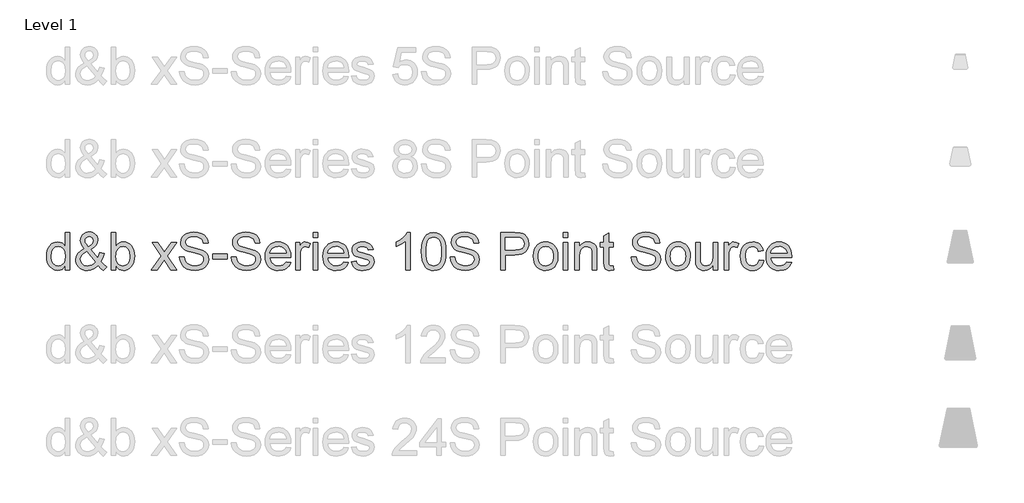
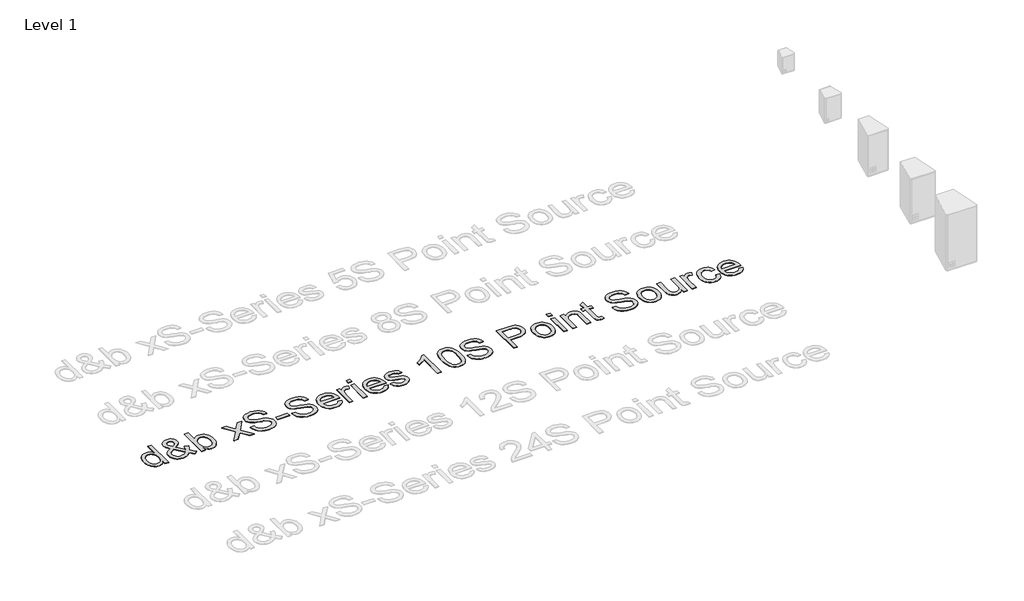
# One storey, part 47 of 55: 1 proxy.
"""IFC4 building model written with IfcOpenShell, lengths in millimetres."""

from ifc_helpers import new_model, si_unit, origin, origin_with_axes, place, context, project, spatial, polyline, outline, extrude, element, save

model = new_model("IFC4")

# Units and contexts
model_context = context("Model", 3, world=origin())
ifc_project = project(units=[si_unit("LENGTHUNIT", "METRE", prefix="MILLI")], contexts=[model_context])

# Site, building, storey
site = spatial("IfcSite", under=ifc_project)
building = spatial("IfcBuilding", under=site)
storey = spatial("IfcBuildingStorey", under=building, Name="Level 1", Elevation=0.0)

# Proxy
placement = place(None, origin())
element("IfcBuildingElementProxy", 1, Name="400mm Arial", ObjectType="400mm Arial", at=placement, inside=storey, context=model_context, shape_type="SweptSolid", body=[
    extrude(outline(polyline([(-20879.8211974, 13351.3054836), (-20879.8211974, 13398.6886846), (-20894.8491769, 13375.2116819), (-20913.0532043, 13358.4423943), (-20934.4332796, 13348.3808217), (-20958.9894028, 13345.0269642), (-20991.4611202, 13349.8830065), (-21021.1859854, 13364.4511335), (-21046.3491139, 13387.7135384), (-21065.1356211, 13418.6524142), (-21076.8342686, 13456.0169621), (-21080.7338177, 13498.5563835), (-21077.1408369, 13540.5685074), (-21066.3618944, 13578.5094038), (-21048.4092531, 13610.2208318), (-21023.2951755, 13633.5445503), (-20992.9203855, 13647.8919481), (-20959.1856065, 13652.674414), (-20934.6110892, 13649.2531115), (-20912.8815261, 13638.9892038), (-20894.4629008, 13623.2561171), (-20879.8211974, 13603.4272776), (-20879.8211974, 13753.1307242), (-20829.5930424, 13753.1307242), (-20829.5930424, 13351.3054836), (-20879.8211974, 13351.3054836)]), holes=[polyline([(-21030.5056627, 13498.7525872), (-21029.089317, 13474.3957335), (-21024.8402799, 13453.3191608), (-21017.7585515, 13435.5228693), (-21007.8441318, 13421.0068589), (-20983.1469871, 13401.6930542), (-20969.2717046, 13396.864603), (-20954.3786151, 13395.2551193), (-20939.415015, 13396.7910266), (-20925.6225058, 13401.3987486), (-20901.5507606, 13419.8296365), (-20892.0440767, 13433.7386416), (-20885.2535882, 13450.8911397), (-20879.8211974, 13494.9266145), (-20885.3516901, 13543.0701049), (-20892.2648059, 13561.6052261), (-20901.9431681, 13576.4492646), (-20913.6448812, 13587.8229496), (-20926.6280499, 13595.9470104), (-20940.8926743, 13600.8214468), (-20956.4387543, 13602.4462589), (-20971.6261493, 13600.8858262), (-20985.5014319, 13596.2045278), (-20998.064602, 13588.4023638), (-21009.3156597, 13577.4793342), (-21018.586286, 13563.1963157), (-21025.2081619, 13545.3141851), (-21030.5056627, 13498.7525872)])]), origin_with_axes(), (0.0, 0.0, 1.0), 5.0),
    extrude(outline(polyline([(-20523.809528, 13400.9450275), (-20549.3405384, 13376.4808748), (-20577.0788409, 13359.00648), (-20607.0734862, 13348.5218431), (-20639.3735254, 13345.0269642), (-20668.6814577, 13347.6144009), (-20694.8010793, 13355.376711), (-20717.7323904, 13368.3138945), (-20737.4753908, 13386.4259514), (-20750.308341, 13403.7961129), (-20759.4747341, 13422.1595558), (-20764.9745699, 13441.5162802), (-20766.8078485, 13461.8662859), (-20760.9094739, 13497.0603301), (-20743.2143499, 13528.6736562), (-20713.796053, 13556.6817387), (-20672.7281596, 13581.0600523), (-20694.6416638, 13609.4114914), (-20707.7995765, 13631.8768186), (-20714.3846642, 13651.0557332), (-20716.5796934, 13669.5479349), (-20714.8506481, 13687.1020374), (-20709.6635119, 13703.4666548), (-20701.018285, 13718.6417871), (-20688.9149674, 13732.6274343), (-20674.1935562, 13744.3444759), (-20657.6940487, 13752.7137912), (-20639.4164449, 13757.7353805), (-20619.3607448, 13759.4092436), (-20600.212487, 13757.8089569), (-20582.8913764, 13753.0080968), (-20567.397413, 13745.0066634), (-20553.7305969, 13733.8046567), (-20542.5715097, 13720.3585698), (-20534.6007332, 13705.6248959), (-20529.8182672, 13689.603635), (-20528.2241119, 13672.2947871), (-20532.9452642, 13644.31123), (-20547.108721, 13618.436863), (-20570.7144823, 13594.6716861), (-20603.7625482, 13573.0156993), (-20531.069066, 13482.4676776), (-20518.6837055, 13508.3420446), (-20509.3885538, 13538.0914353), (-20459.1603987, 13527.2021282), (-20474.6114425, 13480.6773185), (-20494.6732739, 13444.5022557), (-20466.1256311, 13411.1966724), (-20434.0463211, 13383.6790991), (-20471.7174374, 13345.0269642), (-20497.3465498, 13368.47331), (-20523.809528, 13400.9450275)]), holes=[polyline([(-20557.4584678, 13437.1446158), (-20647.1235727, 13549.0788442), (-20681.3733865, 13527.2266537), (-20702.305872, 13506.9931439), (-20713.0112381, 13487.6670765), (-20716.5796934, 13468.5372127), (-20711.6991256, 13444.8456122), (-20697.0574222, 13420.2710949), (-20686.2784798, 13409.3266056), (-20673.4639236, 13401.5091132), (-20658.6137537, 13396.8186177), (-20641.7279702, 13395.2551193), (-20619.0051256, 13398.1736498), (-20595.5710425, 13406.9292412), (-20574.1480476, 13420.3201459), (-20557.4584678, 13437.1446158)]), polyline([(-20629.1709314, 13604.7026019), (-20602.9041569, 13621.3676562), (-20587.8700461, 13635.8499441), (-20580.8067117, 13649.9398245), (-20578.452267, 13665.4276565), (-20581.5547385, 13682.9756277), (-20590.862153, 13696.9674062), (-20604.829406, 13706.1276679), (-20621.9113933, 13709.1810885), (-20639.3612626, 13706.1521934), (-20653.6473468, 13697.0655081), (-20663.1754905, 13683.6132898), (-20666.3515384, 13667.4877957), (-20662.0350563, 13649.0936959), (-20648.9875082, 13628.639457), (-20629.1709314, 13604.7026019)])]), origin_with_axes(), (0.0, 0.0, 1.0), 5.0),
    extrude(outline(polyline([(-20333.590011, 13351.3054836), (-20383.8181661, 13351.3054836), (-20383.8181661, 13753.1307242), (-20333.590011, 13753.1307242), (-20333.590011, 13604.1139907), (-20317.0721094, 13625.3591759), (-20298.4204923, 13640.5343082), (-20277.6351595, 13649.6393876), (-20254.7161112, 13652.674414), (-20228.8417442, 13649.9398245), (-20204.3898543, 13641.736056), (-20182.758393, 13628.5781433), (-20165.3453119, 13610.9811212), (-20151.6968898, 13589.116668), (-20141.3594058, 13563.1564619), (-20134.8478945, 13534.1796234), (-20132.6773907, 13503.265273), (-20134.9245365, 13467.5929822), (-20141.6659741, 13436.2126481), (-20152.9017034, 13409.1242705), (-20168.6317244, 13386.3278495), (-20187.5132678, 13368.2587122), (-20208.2035643, 13355.3521855), (-20230.702614, 13347.6082695), (-20255.0104168, 13345.0269642), (-20278.6836232, 13348.3562962), (-20299.671291, 13358.3442924), (-20317.9734203, 13374.9909527), (-20333.590011, 13398.2962771), (-20333.590011, 13351.3054836)]), holes=[polyline([(-20333.590011, 13500.9108283), (-20330.1564457, 13459.0213318), (-20319.8557498, 13430.6698927), (-20307.6849872, 13415.1759293), (-20293.5399244, 13404.1088126), (-20277.4205617, 13397.4685426), (-20259.3268989, 13395.2551193), (-20244.3050508, 13396.8860628), (-20230.3377977, 13401.7788933), (-20217.4251396, 13409.9336109), (-20205.5670767, 13421.3502155), (-20195.6526569, 13435.9980502), (-20188.5709285, 13453.8464584), (-20184.3218914, 13474.8954399), (-20182.9055458, 13499.1449947), (-20188.3379366, 13545.1057186), (-20195.1284251, 13562.8989445), (-20204.6351089, 13577.2340795), (-20216.0670419, 13588.264408), (-20228.6332778, 13596.1432141), (-20242.3338164, 13600.8704977), (-20257.1686579, 13602.4462589), (-20272.190506, 13600.8153154), (-20286.1577591, 13595.9224849), (-20299.0704171, 13587.7677673), (-20310.9284801, 13576.3511628), (-20320.8428999, 13561.8504808), (-20327.9246283, 13544.443531), (-20332.1736653, 13524.1303135), (-20333.590011, 13500.9108283)])]), origin_with_axes(), (0.0, 0.0, 1.0), 5.0),
    extrude(outline(polyline([(-19950.6003285, 13351.3054836), (-19843.2768878, 13499.7336059), (-19944.3218092, 13646.3958946), (-19884.0872638, 13646.3958946), (-19835.3306367, 13575.6644497), (-19812.4729021, 13542.4079173), (-19792.6563253, 13569.6802359), (-19737.1306695, 13646.3958946), (-19676.6999204, 13646.3958946), (-19782.8461387, 13499.635504), (-19680.623995, 13351.3054836), (-19740.9566422, 13351.3054836), (-19802.5646137, 13440.5781811), (-19813.7482263, 13456.9611926), (-19890.1695795, 13351.3054836), (-19950.6003285, 13351.3054836)])), origin_with_axes(), (0.0, 0.0, 1.0), 5.0),
    extrude(outline(polyline([(-19649.2313981, 13489.43291), (-19599.003243, 13489.43291), (-19593.2397584, 13461.5597175), (-19582.8164352, 13439.155704), (-19566.556051, 13421.3747409), (-19543.2813835, 13407.3706996), (-19514.8318425, 13398.2840144), (-19483.0468381, 13395.2551193), (-19455.063281, 13397.5482504), (-19430.5623402, 13404.4276437), (-19410.7089752, 13415.3169507), (-19396.6681457, 13429.6398231), (-19388.3172244, 13446.0841483), (-19385.533584, 13463.3378138), (-19387.6182486, 13480.150021), (-19393.8722425, 13494.6813598), (-19406.5764341, 13507.0789831), (-19428.0116917, 13517.4900435), (-19501.1466323, 13536.6689582), (-19549.1552327, 13549.360887), (-19579.8733793, 13561.4396792), (-19604.8770922, 13578.3377255), (-19622.5967416, 13598.8164899), (-19633.1549549, 13622.434514), (-19636.6743593, 13648.7503394), (-19632.3210891, 13678.1686363), (-19619.2612782, 13705.6003704), (-19597.8382834, 13728.8505125), (-19568.395461, 13745.7240333), (-19533.054264, 13755.987941), (-19493.9361452, 13759.4092436), (-19451.5561394, 13755.8285255), (-19414.4736342, 13745.0863712), (-19384.013005, 13727.40351), (-19361.4986269, 13703.000671), (-19347.249331, 13673.3984331), (-19341.5839483, 13640.1173753), (-19391.8121033, 13640.1173753), (-19401.0336787, 13670.0874951), (-19409.3968627, 13681.9455581), (-19420.2616443, 13691.7189564), (-19450.3053406, 13704.8155555), (-19491.9741079, 13709.1810885), (-19534.6238939, 13704.8646064), (-19550.9271976, 13699.4690038), (-19563.8827752, 13691.9151602), (-19580.805347, 13672.8588728), (-19586.4462043, 13650.2218674), (-19582.4485532, 13630.9203254), (-19570.4556002, 13615.3957052), (-19542.1041611, 13601.5142912), (-19488.4424407, 13587.3385717), (-19433.0639377, 13573.8740907), (-19399.5621507, 13562.1263923), (-19370.9286687, 13543.9039708), (-19350.9526764, 13521.4141181), (-19339.2172408, 13494.902089), (-19335.3054289, 13464.6131381), (-19339.805852, 13433.6497368), (-19353.3071212, 13404.5257455), (-19375.2574136, 13379.4607189), (-19405.1049061, 13360.6742117), (-19440.9979261, 13348.9387761), (-19481.0848008, 13345.0269642), (-19530.2951491, 13349.2453444), (-19570.7989567, 13361.900485), (-19603.0622077, 13383.041437), (-19627.5508858, 13412.7172513), (-19643.2717098, 13448.8677887), (-19649.2313981, 13489.43291)])), origin_with_axes(), (0.0, 0.0, 1.0), 5.0),
    extrude(outline(polyline([(-19291.3557932, 13470.5973519), (-19291.3557932, 13520.825507), (-19134.3928086, 13520.825507), (-19134.3928086, 13470.5973519), (-19291.3557932, 13470.5973519)])), origin_with_axes(), (0.0, 0.0, 1.0), 5.0),
    extrude(outline(polyline([(-19090.4431729, 13489.43291), (-19040.2150178, 13489.43291), (-19034.4515332, 13461.5597175), (-19024.02821, 13439.155704), (-19007.7678258, 13421.3747409), (-18984.4931583, 13407.3706996), (-18956.0436173, 13398.2840144), (-18924.2586129, 13395.2551193), (-18896.2750558, 13397.5482504), (-18871.774115, 13404.4276437), (-18851.9207499, 13415.3169507), (-18837.8799205, 13429.6398231), (-18829.5289992, 13446.0841483), (-18826.7453587, 13463.3378138), (-18828.8300234, 13480.150021), (-18835.0840173, 13494.6813598), (-18847.7882089, 13507.0789831), (-18869.2234665, 13517.4900435), (-18942.3584071, 13536.6689582), (-18990.3670075, 13549.360887), (-19021.0851541, 13561.4396792), (-19046.088867, 13578.3377255), (-19063.8085164, 13598.8164899), (-19074.3667297, 13622.434514), (-19077.8861341, 13648.7503394), (-19073.5328638, 13678.1686363), (-19060.473053, 13705.6003704), (-19039.0500582, 13728.8505125), (-19009.6072358, 13745.7240333), (-18974.2660388, 13755.987941), (-18935.14792, 13759.4092436), (-18892.7679141, 13755.8285255), (-18855.685409, 13745.0863712), (-18825.2247798, 13727.40351), (-18802.7104017, 13703.000671), (-18788.4611058, 13673.3984331), (-18782.7957231, 13640.1173753), (-18833.0238781, 13640.1173753), (-18842.2454535, 13670.0874951), (-18850.6086375, 13681.9455581), (-18861.4734191, 13691.7189564), (-18891.5171154, 13704.8155555), (-18933.1858827, 13709.1810885), (-18975.8356687, 13704.8646064), (-18992.1389724, 13699.4690038), (-19005.09455, 13691.9151602), (-19022.0171218, 13672.8588728), (-19027.657979, 13650.2218674), (-19023.660328, 13630.9203254), (-19011.667375, 13615.3957052), (-18983.3159359, 13601.5142912), (-18929.6542155, 13587.3385717), (-18874.2757125, 13573.8740907), (-18840.7739255, 13562.1263923), (-18812.1404435, 13543.9039708), (-18792.1644512, 13521.4141181), (-18780.4290156, 13494.902089), (-18776.5172037, 13464.6131381), (-18781.0176267, 13433.6497368), (-18794.518896, 13404.5257455), (-18816.4691883, 13379.4607189), (-18846.3166809, 13360.6742117), (-18882.2097009, 13348.9387761), (-18922.2965756, 13345.0269642), (-18971.5069238, 13349.2453444), (-19012.0107315, 13361.900485), (-19044.2739825, 13383.041437), (-19068.7626606, 13412.7172513), (-19084.4834846, 13448.8677887), (-19090.4431729, 13489.43291)])), origin_with_axes(), (0.0, 0.0, 1.0), 5.0),
    extrude(outline(polyline([(-18500.850962, 13439.204755), (-18451.6038255, 13432.9262356), (-18459.1546035, 13413.2016293), (-18469.3480004, 13395.819205), (-18482.1840164, 13380.7789628), (-18497.6626513, 13368.0809026), (-18515.6244897, 13357.9948045), (-18535.9101161, 13350.7904488), (-18583.4527326, 13345.0269642), (-18614.618469, 13347.5132333), (-18642.3874282, 13354.9720408), (-18666.7596104, 13367.4033865), (-18687.7350155, 13384.8072706), (-18704.602405, 13406.699315), (-18716.6505403, 13432.5951418), (-18723.8794215, 13462.4947509), (-18726.2890486, 13496.3981425), (-18723.8548961, 13531.4511652), (-18716.5524385, 13562.3471215), (-18704.3816758, 13589.0860112), (-18687.342608, 13611.6678343), (-18666.4223852, 13629.6082129), (-18642.6081574, 13642.4227691), (-18615.8999246, 13650.1115028), (-18586.2976867, 13652.674414), (-18557.6488763, 13650.1176342), (-18531.7407868, 13642.4472946), (-18508.5734182, 13629.6633952), (-18488.1467704, 13611.7659362), (-18471.472519, 13589.233164), (-18459.5623394, 13562.5433252), (-18452.4162316, 13531.6964199), (-18450.0341957, 13496.6924481), (-18450.3285013, 13483.1543906), (-18676.0608935, 13483.1543906), (-18673.1515601, 13463.1109533), (-18667.3666157, 13445.5568507), (-18658.7060604, 13430.492083), (-18647.1698942, 13417.9166502), (-18633.3957791, 13408.0022304), (-18618.0213774, 13400.920502), (-18582.4717139, 13395.2551193), (-18555.7389556, 13397.8793442), (-18533.2245775, 13405.7520189), (-18514.9285796, 13419.3636527), (-18500.850962, 13439.204755)]), holes=[polyline([(-18676.0608935, 13533.3825457), (-18500.2623508, 13533.3825457), (-18507.0559049, 13559.9191003), (-18520.3732332, 13578.9018113), (-18534.0707061, 13589.2025071), (-18549.65664, 13596.560147), (-18567.1310348, 13600.974731), (-18586.4938904, 13602.4462589), (-18620.3512967, 13597.7496321), (-18648.3471166, 13583.6597517), (-18667.8080741, 13561.6971966), (-18676.0608935, 13533.3825457)])]), origin_with_axes(), (0.0, 0.0, 1.0), 5.0),
    extrude(outline(polyline([(-18399.8060406, 13351.3054836), (-18399.8060406, 13646.3958946), (-18355.8564049, 13646.3958946), (-18355.8564049, 13602.7405645), (-18339.6205462, 13628.0508458), (-18324.6600117, 13642.9623293), (-18309.6504263, 13650.2463929), (-18293.2674148, 13652.674414), (-18268.2514391, 13648.7993903), (-18242.843056, 13637.1743193), (-18259.618475, 13592.1455631), (-18277.2768108, 13599.871085), (-18294.9351465, 13602.4462589), (-18309.9324692, 13599.9691868), (-18323.3356365, 13592.5379705), (-18334.1636299, 13580.7166958), (-18341.4354307, 13565.0694482), (-18347.5422718, 13537.0123147), (-18349.5778855, 13506.4045327), (-18349.5778855, 13351.3054836), (-18399.8060406, 13351.3054836)])), origin_with_axes(), (0.0, 0.0, 1.0), 5.0),
    extrude(outline(polyline([(-18211.4504591, 13702.9025691), (-18211.4504591, 13753.1307242), (-18161.222304, 13753.1307242), (-18161.222304, 13702.9025691), (-18211.4504591, 13702.9025691)])), origin_with_axes(), (0.0, 0.0, 1.0), 5.0),
    extrude(outline(polyline([(-18211.4504591, 13351.3054836), (-18211.4504591, 13646.3958946), (-18161.222304, 13646.3958946), (-18161.222304, 13351.3054836), (-18211.4504591, 13351.3054836)])), origin_with_axes(), (0.0, 0.0, 1.0), 5.0),
    extrude(outline(polyline([(-17879.2775429, 13439.204755), (-17830.0304065, 13432.9262356), (-17837.5811844, 13413.2016293), (-17847.7745814, 13395.819205), (-17860.6105973, 13380.7789628), (-17876.0892323, 13368.0809026), (-17894.0510707, 13357.9948045), (-17914.336697, 13350.7904488), (-17961.8793136, 13345.0269642), (-17993.0450499, 13347.5132333), (-18020.8140092, 13354.9720408), (-18045.1861914, 13367.4033865), (-18066.1615965, 13384.8072706), (-18083.0289859, 13406.699315), (-18095.0771213, 13432.5951418), (-18102.3060025, 13462.4947509), (-18104.7156295, 13496.3981425), (-18102.281477, 13531.4511652), (-18094.9790194, 13562.3471215), (-18082.8082567, 13589.0860112), (-18065.769189, 13611.6678343), (-18044.8489662, 13629.6082129), (-18021.0347384, 13642.4227691), (-17994.3265055, 13650.1115028), (-17964.7242676, 13652.674414), (-17936.0754573, 13650.1176342), (-17910.1673678, 13642.4472946), (-17886.9999991, 13629.6633952), (-17866.5733513, 13611.7659362), (-17849.8990999, 13589.233164), (-17837.9889203, 13562.5433252), (-17830.8428126, 13531.6964199), (-17828.4607766, 13496.6924481), (-17828.7550822, 13483.1543906), (-18054.4874745, 13483.1543906), (-18051.578141, 13463.1109533), (-18045.7931967, 13445.5568507), (-18037.1326413, 13430.492083), (-18025.5964751, 13417.9166502), (-18011.8223601, 13408.0022304), (-17996.4479584, 13400.920502), (-17960.8982949, 13395.2551193), (-17934.1655366, 13397.8793442), (-17911.6511585, 13405.7520189), (-17893.3551606, 13419.3636527), (-17879.2775429, 13439.204755)]), holes=[polyline([(-18054.4874745, 13533.3825457), (-17878.6889317, 13533.3825457), (-17885.4824859, 13559.9191003), (-17898.7998141, 13578.9018113), (-17912.4972871, 13589.2025071), (-17928.0832209, 13596.560147), (-17945.5576157, 13600.974731), (-17964.9204714, 13602.4462589), (-17998.7778777, 13597.7496321), (-18026.7736975, 13583.6597517), (-18046.234655, 13561.6971966), (-18054.4874745, 13533.3825457)])]), origin_with_axes(), (0.0, 0.0, 1.0), 5.0),
    extrude(outline(polyline([(-17797.0681797, 13439.204755), (-17746.8400246, 13445.4832743), (-17738.918299, 13423.9989658), (-17723.5898825, 13408.2045655), (-17700.7566734, 13398.4924808), (-17670.3205696, 13395.2551193), (-17640.2523479, 13398.2227007), (-17619.1113959, 13407.125445), (-17606.6034081, 13420.0258403), (-17602.4340788, 13434.9863747), (-17606.6279335, 13447.7886682), (-17619.2094978, 13457.5498038), (-17670.9091808, 13471.8726761), (-17746.545719, 13496.4471934), (-17765.6878455, 13508.7957657), (-17779.5569967, 13525.141989), (-17787.9814944, 13544.443531), (-17790.7896603, 13565.6580594), (-17788.5333174, 13585.119017), (-17781.7642887, 13603.0839211), (-17771.0957109, 13618.8415332), (-17757.1407205, 13631.6806148), (-17725.2085633, 13646.5430474), (-17704.3251287, 13651.1415724), (-17681.9946916, 13652.674414), (-17649.302245, 13650.2096047), (-17620.8772295, 13642.8151766), (-17598.0194949, 13631.214631), (-17582.0288908, 13616.1314692), (-17571.4338893, 13596.4497824), (-17564.7629625, 13571.053662), (-17614.9911176, 13564.7751426), (-17621.3309506, 13580.5818057), (-17633.8757267, 13592.4889196), (-17652.748073, 13599.9569241), (-17678.070617, 13602.4462589), (-17706.9125654, 13600.0672887), (-17726.140531, 13592.930378), (-17736.9562617, 13582.6296821), (-17740.5615053, 13570.7593564), (-17734.5772915, 13556.1421785), (-17715.8398352, 13545.0566677), (-17672.5769125, 13534.3635644), (-17598.8533607, 13510.7210148), (-17579.3801404, 13499.4147748), (-17564.6158097, 13483.9392056), (-17555.3083952, 13464.2452561), (-17552.2059237, 13440.2838755), (-17555.8479555, 13415.5131545), (-17566.7740507, 13392.2139614), (-17584.5672766, 13372.2134436), (-17608.8107, 13357.3387483), (-17638.0941069, 13348.1049102), (-17671.0072827, 13345.0269642), (-17698.040478, 13346.5107549), (-17721.6523707, 13350.962127), (-17741.8429609, 13358.3810806), (-17758.6122485, 13368.7676156), (-17772.3097214, 13382.0726811), (-17783.2848676, 13398.2472262), (-17791.5376871, 13417.2912508), (-17797.0681797, 13439.204755)])), origin_with_axes(), (0.0, 0.0, 1.0), 5.0),
    extrude(outline(polyline([(-17162.9377219, 13351.3054836), (-17213.165877, 13351.3054836), (-17213.165877, 13664.4466379), (-17234.1351507, 13647.4872779), (-17260.7452817, 13630.5524434), (-17313.6221871, 13605.1931112), (-17313.6221871, 13652.674414), (-17274.1729745, 13674.1341971), (-17239.9967371, 13699.6652075), (-17213.0555124, 13726.8148988), (-17195.3113375, 13753.1307242), (-17162.9377219, 13753.1307242), (-17162.9377219, 13351.3054836)])), origin_with_axes(), (0.0, 0.0, 1.0), 5.0),
    extrude(outline(polyline([(-17043.6458536, 13548.9807423), (-17039.9547709, 13613.2987778), (-17028.8815229, 13664.5937907), (-17010.536474, 13703.6505958), (-16998.678411, 13718.8839761), (-16985.029989, 13731.2540082), (-16969.5452227, 13740.8250714), (-16952.1781269, 13747.6615452), (-16911.7969465, 13753.1307242), (-16880.845808, 13749.8933626), (-16853.132031, 13740.1812779), (-16829.9554653, 13724.3746149), (-16812.6159606, 13702.8535182), (-16799.5193616, 13675.8019288), (-16789.0715129, 13643.4037877), (-16782.2289078, 13602.2623179), (-16779.9480394, 13548.9807423), (-16783.6023339, 13485.0305888), (-16794.5652174, 13433.8582033), (-16812.7999016, 13394.7646099), (-16824.6303734, 13379.4852444), (-16838.2695984, 13367.050833), (-16853.7727588, 13357.4153904), (-16871.195037, 13350.5329314), (-16911.7969465, 13345.0269642), (-16939.4616726, 13347.4181972), (-16963.9871389, 13354.5918961), (-16985.3733456, 13366.5480609), (-17003.6202925, 13383.2866917), (-17021.1314755, 13413.5449858), (-17033.6394633, 13451.2467589), (-17041.144256, 13496.3920111), (-17043.6458536, 13548.9807423)]), holes=[polyline([(-16993.4176985, 13549.0788442), (-16991.9461705, 13505.414317), (-16987.5315866, 13470.0700543), (-16980.1739467, 13443.0460561), (-16969.8732508, 13424.3423223), (-16957.4143139, 13411.616671), (-16943.5819509, 13402.52692), (-16928.3761618, 13397.0730695), (-16911.7969465, 13395.2551193), (-16895.2177313, 13397.0792008), (-16880.0119421, 13402.5514455), (-16866.1795791, 13411.6718533), (-16853.7206422, 13424.4404242), (-16843.4199463, 13443.1748148), (-16836.0623064, 13470.1926817), (-16831.6477225, 13505.4940248), (-16830.1761945, 13549.0788442), (-16831.5986716, 13591.5876087), (-16835.8661027, 13626.3095377), (-16842.978488, 13653.2446311), (-16852.9358273, 13672.392889), (-16865.1862977, 13685.740874), (-16879.1780763, 13695.2751491), (-16894.9111629, 13700.9957141), (-16912.3855577, 13702.9025691), (-16928.8789338, 13701.2225747), (-16943.8272056, 13696.1825913), (-16957.2303729, 13687.7826191), (-16969.0884359, 13676.022658), (-16979.7324883, 13655.1760116), (-16987.3353829, 13627.0698272), (-16991.8971196, 13591.7041047), (-16993.4176985, 13549.0788442)])]), origin_with_axes(), (0.0, 0.0, 1.0), 5.0),
    extrude(outline(polyline([(-16735.9984038, 13489.43291), (-16685.7702487, 13489.43291), (-16680.0067641, 13461.5597175), (-16669.5834409, 13439.155704), (-16653.3230567, 13421.3747409), (-16630.0483891, 13407.3706996), (-16601.5988482, 13398.2840144), (-16569.8138438, 13395.2551193), (-16541.8302867, 13397.5482504), (-16517.3293458, 13404.4276437), (-16497.4759808, 13415.3169507), (-16483.4351513, 13429.6398231), (-16475.08423, 13446.0841483), (-16472.3005896, 13463.3378138), (-16474.3852543, 13480.150021), (-16480.6392482, 13494.6813598), (-16493.3434397, 13507.0789831), (-16514.7786973, 13517.4900435), (-16587.913638, 13536.6689582), (-16635.9222383, 13549.360887), (-16666.6403849, 13561.4396792), (-16691.6440979, 13578.3377255), (-16709.3637473, 13598.8164899), (-16719.9219606, 13622.434514), (-16723.441365, 13648.7503394), (-16719.0880947, 13678.1686363), (-16706.0282839, 13705.6003704), (-16684.605289, 13728.8505125), (-16655.1624667, 13745.7240333), (-16619.8212697, 13755.987941), (-16580.7031509, 13759.4092436), (-16538.323145, 13755.8285255), (-16501.2406399, 13745.0863712), (-16470.7800107, 13727.40351), (-16448.2656326, 13703.000671), (-16434.0163367, 13673.3984331), (-16428.3509539, 13640.1173753), (-16478.579109, 13640.1173753), (-16487.8006843, 13670.0874951), (-16496.1638684, 13681.9455581), (-16507.02865, 13691.7189564), (-16537.0723462, 13704.8155555), (-16578.7411136, 13709.1810885), (-16621.3908995, 13704.8646064), (-16637.6942033, 13699.4690038), (-16650.6497809, 13691.9151602), (-16667.5723527, 13672.8588728), (-16673.2132099, 13650.2218674), (-16669.2155589, 13630.9203254), (-16657.2226059, 13615.3957052), (-16628.8711668, 13601.5142912), (-16575.2094464, 13587.3385717), (-16519.8309434, 13573.8740907), (-16486.3291564, 13562.1263923), (-16457.6956744, 13543.9039708), (-16437.7196821, 13521.4141181), (-16425.9842464, 13494.902089), (-16422.0724345, 13464.6131381), (-16426.5728576, 13433.6497368), (-16440.0741268, 13404.5257455), (-16462.0244192, 13379.4607189), (-16491.8719118, 13360.6742117), (-16527.7649318, 13348.9387761), (-16567.8518065, 13345.0269642), (-16617.0621547, 13349.2453444), (-16657.5659624, 13361.900485), (-16689.8292134, 13383.041437), (-16714.3178915, 13412.7172513), (-16730.0387154, 13448.8677887), (-16735.9984038, 13489.43291)])), origin_with_axes(), (0.0, 0.0, 1.0), 5.0),
    extrude(outline(polyline([(-16189.7672173, 13351.3054836), (-16189.7672173, 13753.1307242), (-16040.8485857, 13753.1307242), (-15980.8102441, 13749.3047514), (-15954.0406975, 13742.155578), (-15932.004566, 13730.5182442), (-15914.2603911, 13713.8654526), (-15900.3667144, 13691.6699055), (-15891.3903938, 13665.4889702), (-15888.3982869, 13636.8800137), (-15890.4185722, 13612.2135259), (-15896.479428, 13589.5213382), (-15906.5808545, 13568.8034505), (-15920.7228515, 13550.0598628), (-15940.1378238, 13534.5229799), (-15966.0581761, 13523.4252064), (-15998.4839082, 13516.7665423), (-16037.4150204, 13514.5469876), (-16139.5390622, 13514.5469876), (-16139.5390622, 13351.3054836), (-16189.7672173, 13351.3054836)]), holes=[polyline([(-16139.5390622, 13564.7751426), (-16034.4719644, 13564.7751426), (-15989.9337175, 13569.3859303), (-15973.3299768, 13575.1494149), (-15960.5031579, 13583.2182933), (-15950.9320947, 13593.3779678), (-15944.0956209, 13605.4138404), (-15938.6264419, 13635.1141801), (-15941.8515408, 13657.6776092), (-15951.5268372, 13676.709371), (-15966.4505835, 13691.0322434), (-15985.4210317, 13699.4690038), (-16035.6491868, 13702.9025691), (-16139.5390622, 13702.9025691), (-16139.5390622, 13564.7751426)])]), origin_with_axes(), (0.0, 0.0, 1.0), 5.0),
    extrude(outline(polyline([(-15838.1701318, 13498.8506891), (-15835.4539364, 13537.067497), (-15827.3053502, 13569.999067), (-15813.7243732, 13597.6453989), (-15794.7110054, 13620.0064928), (-15775.5688789, 13634.2987084), (-15754.4401897, 13644.5074337), (-15731.3249377, 13650.6326689), (-15706.2231229, 13652.674414), (-15678.5124116, 13650.1881449), (-15653.456582, 13642.7293374), (-15631.0556342, 13630.2979917), (-15611.3095681, 13612.8941076), (-15595.193271, 13591.1062964), (-15583.6816303, 13565.5231694), (-15576.7746458, 13536.1447264), (-15574.4723177, 13502.9709675), (-15578.5435451, 13452.2277776), (-15590.7572273, 13413.6001681), (-15610.7577451, 13384.6723805), (-15638.1894792, 13363.0286565), (-15670.7715613, 13349.5273873), (-15706.2231229, 13345.0269642), (-15734.3385043, 13347.5040363), (-15759.6273258, 13354.9352526), (-15782.0895873, 13367.3206131), (-15801.7252888, 13384.6601178), (-15817.6699076, 13406.6594611), (-15829.058921, 13433.0243374), (-15835.8923291, 13463.7547468), (-15838.1701318, 13498.8506891)]), holes=[polyline([(-15787.9419767, 13498.948791), (-15786.4888428, 13474.5858058), (-15782.1294412, 13453.4908391), (-15774.8637718, 13435.6638907), (-15764.6918346, 13421.1049608), (-15752.3187369, 13409.7956551), (-15738.4495856, 13401.7175796), (-15723.084381, 13396.8707344), (-15706.2231229, 13395.2551193), (-15689.4477039, 13396.8799314), (-15674.1438129, 13401.7543678), (-15660.3114499, 13409.8784286), (-15647.9506148, 13421.2521136), (-15637.7786777, 13435.9551307), (-15630.5130083, 13454.0671876), (-15626.1536066, 13475.5882843), (-15624.7004727, 13500.5184208), (-15626.1628037, 13524.1088538), (-15630.5497965, 13544.6519975), (-15637.8614511, 13562.1478521), (-15648.0977676, 13576.5964174), (-15660.5045879, 13587.9057231), (-15674.3277539, 13595.9837986), (-15689.5672655, 13600.8306439), (-15706.2231229, 13602.4462589), (-15723.084381, 13600.8367752), (-15738.4495856, 13596.008324), (-15752.3187369, 13587.9609054), (-15764.6918346, 13576.6945193), (-15774.8637718, 13562.1785089), (-15782.1294412, 13544.3822174), (-15786.4888428, 13523.3056447), (-15787.9419767, 13498.948791)])]), origin_with_axes(), (0.0, 0.0, 1.0), 5.0),
    extrude(outline(polyline([(-15517.9656432, 13351.3054836), (-15517.9656432, 13646.3958946), (-15467.7374881, 13646.3958946), (-15467.7374881, 13351.3054836), (-15517.9656432, 13351.3054836)])), origin_with_axes(), (0.0, 0.0, 1.0), 5.0),
    extrude(outline(polyline([(-15517.9656432, 13702.9025691), (-15517.9656432, 13753.1307242), (-15467.7374881, 13753.1307242), (-15467.7374881, 13702.9025691), (-15517.9656432, 13702.9025691)])), origin_with_axes(), (0.0, 0.0, 1.0), 5.0),
    extrude(outline(polyline([(-15392.3952555, 13351.3054836), (-15392.3952555, 13646.3958946), (-15342.1671004, 13646.3958946), (-15342.1671004, 13605.1931112), (-15324.7172311, 13625.9661812), (-15303.7602201, 13640.8040883), (-15279.2960675, 13649.7068326), (-15251.3247731, 13652.674414), (-15226.5663148, 13650.2831811), (-15203.8925212, 13643.1094821), (-15184.9833866, 13632.0484968), (-15171.5189056, 13617.9954046), (-15162.3831694, 13600.9869937), (-15156.4602693, 13581.0600523), (-15153.8115189, 13532.4996289), (-15153.8115189, 13351.3054836), (-15204.039674, 13351.3054836), (-15204.039674, 13525.7306002), (-15205.4866765, 13551.7030691), (-15209.827684, 13570.1707452), (-15217.8352488, 13583.4022343), (-15230.281923, 13593.666142), (-15246.2357388, 13600.2512297), (-15264.7647286, 13602.4462589), (-15294.1830255, 13597.5166402), (-15319.2603149, 13582.727784), (-15329.2820336, 13570.6551232), (-15336.440404, 13554.1556157), (-15340.7354263, 13533.2292616), (-15342.1671004, 13507.8760607), (-15342.1671004, 13351.3054836), (-15392.3952555, 13351.3054836)])), origin_with_axes(), (0.0, 0.0, 1.0), 5.0),
    extrude(outline(polyline([(-14978.0129761, 13393.1949801), (-14971.7344568, 13349.8339556), (-15009.3074712, 13345.0269642), (-15033.4160046, 13347.1116288), (-15051.3931714, 13353.3656227), (-15064.097363, 13363.004131), (-15072.3869706, 13375.2423387), (-15076.9487074, 13396.2606634), (-15078.4692863, 13432.2395225), (-15078.4692863, 13596.1677396), (-15116.1404026, 13596.1677396), (-15116.1404026, 13646.3958946), (-15078.4692863, 13646.3958946), (-15078.4692863, 13718.1083582), (-15028.2411312, 13747.6370197), (-15028.2411312, 13646.3958946), (-14978.0129761, 13646.3958946), (-14978.0129761, 13596.1677396), (-15028.2411312, 13596.1677396), (-15028.2411312, 13433.7110505), (-15025.5923808, 13407.812158), (-15017.0084676, 13398.6396336), (-14999.8896921, 13395.2551193), (-14978.0129761, 13393.1949801)])), origin_with_axes(), (0.0, 0.0, 1.0), 5.0),
    extrude(outline(polyline([(-14783.3788752, 13489.43291), (-14733.1507201, 13489.43291), (-14727.3872356, 13461.5597175), (-14716.9639124, 13439.155704), (-14700.7035282, 13421.3747409), (-14677.4288606, 13407.3706996), (-14648.9793197, 13398.2840144), (-14617.1943153, 13395.2551193), (-14589.2107582, 13397.5482504), (-14564.7098173, 13404.4276437), (-14544.8564523, 13415.3169507), (-14530.8156228, 13429.6398231), (-14522.4647015, 13446.0841483), (-14519.6810611, 13463.3378138), (-14521.7657257, 13480.150021), (-14528.0197196, 13494.6813598), (-14540.7239112, 13507.0789831), (-14562.1591688, 13517.4900435), (-14635.2941094, 13536.6689582), (-14683.3027098, 13549.360887), (-14714.0208564, 13561.4396792), (-14739.0245693, 13578.3377255), (-14756.7442188, 13598.8164899), (-14767.302432, 13622.434514), (-14770.8218365, 13648.7503394), (-14766.4685662, 13678.1686363), (-14753.4087554, 13705.6003704), (-14731.9857605, 13728.8505125), (-14702.5429382, 13745.7240333), (-14667.2017411, 13755.987941), (-14628.0836223, 13759.4092436), (-14585.7036165, 13755.8285255), (-14548.6211114, 13745.0863712), (-14518.1604822, 13727.40351), (-14495.6461041, 13703.000671), (-14481.3968081, 13673.3984331), (-14475.7314254, 13640.1173753), (-14525.9595805, 13640.1173753), (-14535.1811558, 13670.0874951), (-14543.5443398, 13681.9455581), (-14554.4091214, 13691.7189564), (-14584.4528177, 13704.8155555), (-14626.121585, 13709.1810885), (-14668.771371, 13704.8646064), (-14685.0746747, 13699.4690038), (-14698.0302523, 13691.9151602), (-14714.9528241, 13672.8588728), (-14720.5936814, 13650.2218674), (-14716.5960304, 13630.9203254), (-14704.6030773, 13615.3957052), (-14676.2516382, 13601.5142912), (-14622.5899179, 13587.3385717), (-14567.2114149, 13573.8740907), (-14533.7096278, 13562.1263923), (-14505.0761459, 13543.9039708), (-14485.1001535, 13521.4141181), (-14473.3647179, 13494.902089), (-14469.452906, 13464.6131381), (-14473.9533291, 13433.6497368), (-14487.4545983, 13404.5257455), (-14509.4048907, 13379.4607189), (-14539.2523832, 13360.6742117), (-14575.1454032, 13348.9387761), (-14615.232278, 13345.0269642), (-14664.4426262, 13349.2453444), (-14704.9464339, 13361.900485), (-14737.2096848, 13383.041437), (-14761.698363, 13412.7172513), (-14777.4191869, 13448.8677887), (-14783.3788752, 13489.43291)])), origin_with_axes(), (0.0, 0.0, 1.0), 5.0),
    extrude(outline(polyline([(-14412.9462315, 13498.8506891), (-14410.2300362, 13537.067497), (-14402.08145, 13569.999067), (-14388.500473, 13597.6453989), (-14369.4871052, 13620.0064928), (-14350.3449787, 13634.2987084), (-14329.2162894, 13644.5074337), (-14306.1010374, 13650.6326689), (-14280.9992226, 13652.674414), (-14253.2885113, 13650.1881449), (-14228.2326818, 13642.7293374), (-14205.8317339, 13630.2979917), (-14186.0856679, 13612.8941076), (-14169.9693708, 13591.1062964), (-14158.45773, 13565.5231694), (-14151.5507456, 13536.1447264), (-14149.2484174, 13502.9709675), (-14153.3196448, 13452.2277776), (-14165.5333271, 13413.6001681), (-14185.5338449, 13384.6723805), (-14212.965579, 13363.0286565), (-14245.547661, 13349.5273873), (-14280.9992226, 13345.0269642), (-14309.1146041, 13347.5040363), (-14334.4034256, 13354.9352526), (-14356.8656871, 13367.3206131), (-14376.5013886, 13384.6601178), (-14392.4460074, 13406.6594611), (-14403.8350208, 13433.0243374), (-14410.6684289, 13463.7547468), (-14412.9462315, 13498.8506891)]), holes=[polyline([(-14362.7180765, 13498.948791), (-14361.2649426, 13474.5858058), (-14356.9055409, 13453.4908391), (-14349.6398715, 13435.6638907), (-14339.4679344, 13421.1049608), (-14327.0948366, 13409.7956551), (-14313.2256854, 13401.7175796), (-14297.8604807, 13396.8707344), (-14280.9992226, 13395.2551193), (-14264.2238036, 13396.8799314), (-14248.9199126, 13401.7543678), (-14235.0875496, 13409.8784286), (-14222.7267146, 13421.2521136), (-14212.5547774, 13435.9551307), (-14205.289108, 13454.0671876), (-14200.9297064, 13475.5882843), (-14199.4765725, 13500.5184208), (-14200.9389034, 13524.1088538), (-14205.3258962, 13544.6519975), (-14212.6375509, 13562.1478521), (-14222.8738674, 13576.5964174), (-14235.2806877, 13587.9057231), (-14249.1038536, 13595.9837986), (-14264.3433653, 13600.8306439), (-14280.9992226, 13602.4462589), (-14297.8604807, 13600.8367752), (-14313.2256854, 13596.008324), (-14327.0948366, 13587.9609054), (-14339.4679344, 13576.6945193), (-14349.6398715, 13562.1785089), (-14356.9055409, 13544.3822174), (-14361.2649426, 13523.3056447), (-14362.7180765, 13498.948791)])]), origin_with_axes(), (0.0, 0.0, 1.0), 5.0),
    extrude(outline(polyline([(-13904.3861614, 13351.3054836), (-13904.3861614, 13402.024148), (-13922.559532, 13377.0878801), (-13943.7250094, 13359.2762601), (-13967.8825938, 13348.5892882), (-13995.032285, 13345.0269642), (-14019.4964377, 13347.5285618), (-14042.2683332, 13355.0333545), (-14061.3736715, 13366.315069), (-14074.8381525, 13380.147432), (-14083.9003123, 13396.9473764), (-14089.798687, 13417.1318352), (-14092.7417429, 13463.8283232), (-14092.7417429, 13646.3958946), (-14042.5135879, 13646.3958946), (-14042.5135879, 13487.4708727), (-14039.47243, 13436.261699), (-14032.1515783, 13419.1797117), (-14019.6068023, 13406.1934773), (-14002.6719678, 13397.9897088), (-13982.1809407, 13395.2551193), (-13960.5126911, 13398.0510224), (-13940.2423932, 13406.4387319), (-13923.5282879, 13419.6456955), (-13912.5286162, 13436.8993611), (-13906.4217751, 13460.5296479), (-13904.3861614, 13492.8664753), (-13904.3861614, 13646.3958946), (-13854.1580063, 13646.3958946), (-13854.1580063, 13351.3054836), (-13904.3861614, 13351.3054836)])), origin_with_axes(), (0.0, 0.0, 1.0), 5.0),
    extrude(outline(polyline([(-13785.0942931, 13351.3054836), (-13785.0942931, 13646.3958946), (-13741.1446574, 13646.3958946), (-13741.1446574, 13602.7405645), (-13724.9087987, 13628.0508458), (-13709.9482642, 13642.9623293), (-13694.9386788, 13650.2463929), (-13678.5556673, 13652.674414), (-13653.5396916, 13648.7993903), (-13628.1313085, 13637.1743193), (-13644.9067275, 13592.1455631), (-13662.5650633, 13599.871085), (-13680.223399, 13602.4462589), (-13695.2207217, 13599.9691868), (-13708.623889, 13592.5379705), (-13719.4518824, 13580.7166958), (-13726.7236832, 13565.0694482), (-13732.8305243, 13537.0123147), (-13734.866138, 13506.4045327), (-13734.866138, 13351.3054836), (-13785.0942931, 13351.3054836)])), origin_with_axes(), (0.0, 0.0, 1.0), 5.0),
    extrude(outline(polyline([(-13408.3831301, 13458.0403131), (-13358.154975, 13451.7617937), (-13363.6180226, 13428.0609962), (-13372.1590163, 13407.0886568), (-13383.7779559, 13388.8447755), (-13398.4748416, 13373.3293524), (-13415.6304054, 13360.9470575), (-13434.625379, 13352.1025612), (-13455.4597627, 13346.7958634), (-13478.1335563, 13345.0269642), (-13506.3041201, 13347.4948392), (-13531.5622848, 13354.8984644), (-13553.9080503, 13367.2378396), (-13573.3414167, 13384.512965), (-13589.0714377, 13406.398878), (-13600.3071669, 13432.5706163), (-13607.0486045, 13463.0281798), (-13609.2957504, 13497.7715686), (-13605.4575149, 13542.469231), (-13593.9428084, 13581.2072051), (-13574.56769, 13612.4894374), (-13547.1482186, 13634.8198745), (-13514.3454074, 13648.2107791), (-13478.8202694, 13652.674414), (-13456.5358175, 13651.1415724), (-13436.3789499, 13646.5430474), (-13418.3496664, 13638.8788392), (-13402.4479672, 13628.1489477), (-13388.9436323, 13614.5986275), (-13378.1064418, 13598.4731334), (-13369.9363959, 13579.7724653), (-13364.4334944, 13558.4966233), (-13414.6616494, 13552.2181039), (-13423.7728602, 13574.1316081), (-13437.9608425, 13589.8401692), (-13456.4407814, 13599.2947365), (-13478.4278619, 13602.4462589), (-13495.4945208, 13600.8950232), (-13510.8873166, 13596.241316), (-13524.6062494, 13588.4851372), (-13536.651319, 13577.626487), (-13546.4584399, 13563.4139793), (-13553.4635262, 13545.596228), (-13557.666578, 13524.1732331), (-13559.0675953, 13499.1449947), (-13553.5861535, 13452.0683621), (-13546.7343514, 13434.1310491), (-13537.1418284, 13419.9277384), (-13525.335882, 13409.1334675), (-13511.8438098, 13401.423274), (-13496.6656118, 13396.797158), (-13479.801288, 13395.2551193), (-13453.792031, 13399.1056175), (-13432.467138, 13410.6571121), (-13416.9547805, 13430.2039088), (-13408.3831301, 13458.0403131)])), origin_with_axes(), (0.0, 0.0, 1.0), 5.0),
    extrude(outline(polyline([(-13107.6028108, 13439.204755), (-13058.3556744, 13432.9262356), (-13065.9064523, 13413.2016293), (-13076.0998493, 13395.819205), (-13088.9358652, 13380.7789628), (-13104.4145002, 13368.0809026), (-13122.3763386, 13357.9948045), (-13142.6619649, 13350.7904488), (-13190.2045814, 13345.0269642), (-13221.3703178, 13347.5132333), (-13249.1392771, 13354.9720408), (-13273.5114593, 13367.4033865), (-13294.4868643, 13384.8072706), (-13311.3542538, 13406.699315), (-13323.4023892, 13432.5951418), (-13330.6312704, 13462.4947509), (-13333.0408974, 13496.3981425), (-13330.6067449, 13531.4511652), (-13323.3042873, 13562.3471215), (-13311.1335246, 13589.0860112), (-13294.0944569, 13611.6678343), (-13273.1742341, 13629.6082129), (-13249.3600063, 13642.4227691), (-13222.6517734, 13650.1115028), (-13193.0495355, 13652.674414), (-13164.4007252, 13650.1176342), (-13138.4926357, 13642.4472946), (-13115.325267, 13629.6633952), (-13094.8986192, 13611.7659362), (-13078.2243678, 13589.233164), (-13066.3141882, 13562.5433252), (-13059.1680804, 13531.6964199), (-13056.7860445, 13496.6924481), (-13057.0803501, 13483.1543906), (-13282.8127424, 13483.1543906), (-13279.9034089, 13463.1109533), (-13274.1184645, 13445.5568507), (-13265.4579092, 13430.492083), (-13253.921743, 13417.9166502), (-13240.147628, 13408.0022304), (-13224.7732263, 13400.920502), (-13189.2235628, 13395.2551193), (-13162.4908045, 13397.8793442), (-13139.9764264, 13405.7520189), (-13121.6804285, 13419.3636527), (-13107.6028108, 13439.204755)]), holes=[polyline([(-13282.8127424, 13533.3825457), (-13107.0141996, 13533.3825457), (-13113.8077538, 13559.9191003), (-13127.125082, 13578.9018113), (-13140.822555, 13589.2025071), (-13156.4084888, 13596.560147), (-13173.8828836, 13600.974731), (-13193.2457393, 13602.4462589), (-13227.1031456, 13597.7496321), (-13255.0989654, 13583.6597517), (-13274.5599229, 13561.6971966), (-13282.8127424, 13533.3825457)])]), origin_with_axes(), (0.0, 0.0, 1.0), 5.0),
])

save(model, "model.ifc")
